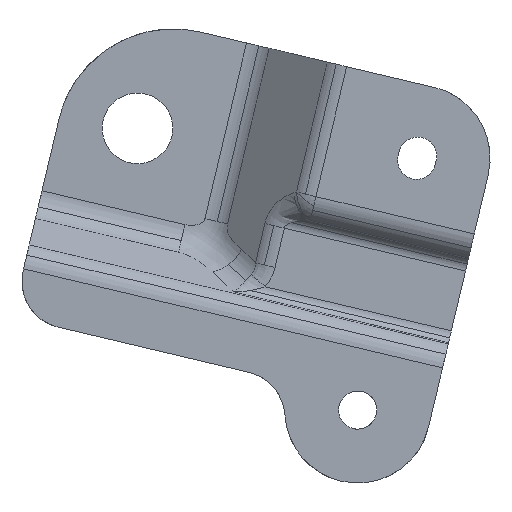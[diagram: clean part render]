
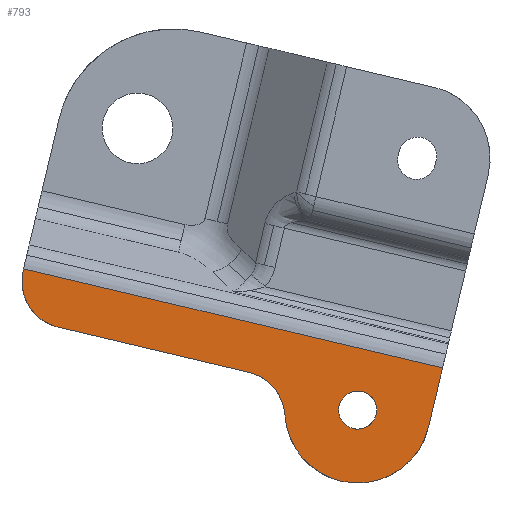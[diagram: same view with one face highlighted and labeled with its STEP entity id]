
A CAD part, front view. The second image highlights one B-rep face of the part: STEP entity #793.
In plain terms, the highlighted planar face has unit normal (0, -1, 0).
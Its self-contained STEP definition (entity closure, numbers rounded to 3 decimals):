
#244=CARTESIAN_POINT('Vertex',(-54.298,-498.001,528.252)) ;
#251=CARTESIAN_POINT('Vertex',(-46.868,-498.001,516.219)) ;
#254=CARTESIAN_POINT('Axis2P3D Location',(-44.567,-498.001,525.951)) ;
#271=CARTESIAN_POINT('Line Origine',(-54.254,-498.001,528.438)) ;
#275=CARTESIAN_POINT('Vertex',(-54.21,-498.001,528.623)) ;
#430=CARTESIAN_POINT('Vertex',(31.869,-498.001,495.03)) ;
#585=CARTESIAN_POINT('Vertex',(34.833,-498.001,507.565)) ;
#588=CARTESIAN_POINT('Line Origine',(33.351,-498.001,501.298)) ;
#629=CARTESIAN_POINT('Vertex',(13.218,-498.001,483.513)) ;
#632=CARTESIAN_POINT('Axis2P3D Location',(16.785,-498.001,498.597)) ;
#653=CARTESIAN_POINT('Vertex',(1.319,-498.001,497.57)) ;
#656=CARTESIAN_POINT('Axis2P3D Location',(16.785,-498.001,498.597)) ;
#673=CARTESIAN_POINT('Axis2P3D Location',(-8.659,-498.001,496.908)) ;
#677=CARTESIAN_POINT('Vertex',(-6.358,-498.001,506.639)) ;
#697=CARTESIAN_POINT('Line Origine',(-26.613,-498.001,511.429)) ;
#718=CARTESIAN_POINT('Vertex',(12.735,-498.001,498.597)) ;
#725=CARTESIAN_POINT('Vertex',(20.835,-498.001,498.597)) ;
#728=CARTESIAN_POINT('Axis2P3D Location',(16.785,-498.001,498.597)) ;
#746=CARTESIAN_POINT('Control Point',(20.835,-498.001,498.597)) ;
#747=CARTESIAN_POINT('Control Point',(20.835,-498.001,497.961)) ;
#748=CARTESIAN_POINT('Control Point',(20.71,-498.001,497.325)) ;
#749=CARTESIAN_POINT('Control Point',(20.46,-498.001,496.721)) ;
#750=CARTESIAN_POINT('Control Point',(19.737,-498.001,495.645)) ;
#751=CARTESIAN_POINT('Control Point',(18.661,-498.001,494.922)) ;
#752=CARTESIAN_POINT('Control Point',(18.057,-498.001,494.672)) ;
#753=CARTESIAN_POINT('Control Point',(16.785,-498.001,494.422)) ;
#754=CARTESIAN_POINT('Control Point',(15.513,-498.001,494.672)) ;
#755=CARTESIAN_POINT('Control Point',(14.909,-498.001,494.922)) ;
#756=CARTESIAN_POINT('Control Point',(13.833,-498.001,495.645)) ;
#757=CARTESIAN_POINT('Control Point',(13.11,-498.001,496.721)) ;
#758=CARTESIAN_POINT('Control Point',(12.86,-498.001,497.325)) ;
#759=CARTESIAN_POINT('Control Point',(12.735,-498.001,497.961)) ;
#760=CARTESIAN_POINT('Control Point',(12.735,-498.001,498.597)) ;
#769=CARTESIAN_POINT('Axis2P3D Location',(38.198,-498.001,521.792)) ;
#774=CARTESIAN_POINT('Line Origine',(-9.689,-498.001,518.094)) ;
#255=DIRECTION('Axis2P3D Direction',(0.,1.,0.)) ;
#272=DIRECTION('Vector Direction',(-0.23,0.,-0.973)) ;
#589=DIRECTION('Vector Direction',(-0.23,0.,-0.973)) ;
#633=DIRECTION('Axis2P3D Direction',(0.,1.,0.)) ;
#657=DIRECTION('Axis2P3D Direction',(0.,1.,0.)) ;
#674=DIRECTION('Axis2P3D Direction',(0.,-1.,0.)) ;
#698=DIRECTION('Vector Direction',(-0.973,0.,0.23)) ;
#729=DIRECTION('Axis2P3D Direction',(0.,1.,0.)) ;
#770=DIRECTION('Axis2P3D Direction',(0.,-1.,0.)) ;
#771=DIRECTION('Axis2P3D XDirection',(-0.973,0.,0.23)) ;
#775=DIRECTION('Vector Direction',(-0.973,0.,0.23)) ;
#256=AXIS2_PLACEMENT_3D('Circle Axis2P3D',#254,#255,$) ;
#634=AXIS2_PLACEMENT_3D('Circle Axis2P3D',#632,#633,$) ;
#658=AXIS2_PLACEMENT_3D('Circle Axis2P3D',#656,#657,$) ;
#675=AXIS2_PLACEMENT_3D('Circle Axis2P3D',#673,#674,$) ;
#730=AXIS2_PLACEMENT_3D('Circle Axis2P3D',#728,#729,$) ;
#772=AXIS2_PLACEMENT_3D('Plane Axis2P3D',#769,#770,#771) ;
#780=ORIENTED_EDGE('',*,*,#660,.F.) ;
#781=ORIENTED_EDGE('',*,*,#636,.T.) ;
#782=ORIENTED_EDGE('',*,*,#592,.F.) ;
#783=ORIENTED_EDGE('',*,*,#778,.T.) ;
#784=ORIENTED_EDGE('',*,*,#277,.T.) ;
#785=ORIENTED_EDGE('',*,*,#258,.T.) ;
#786=ORIENTED_EDGE('',*,*,#701,.F.) ;
#787=ORIENTED_EDGE('',*,*,#679,.F.) ;
#790=ORIENTED_EDGE('',*,*,#761,.T.) ;
#791=ORIENTED_EDGE('',*,*,#732,.T.) ;
#792=FACE_BOUND('',#789,.T.) ;
#273=VECTOR('Line Direction',#272,1.) ;
#590=VECTOR('Line Direction',#589,1.) ;
#699=VECTOR('Line Direction',#698,1.) ;
#776=VECTOR('Line Direction',#775,1.) ;
#793=ADVANCED_FACE('\X2\51E04F554F53\X0\.4',(#788,#792),#773,.T.) ;
#745=B_SPLINE_CURVE_WITH_KNOTS('',5,(#746,#747,#748,#749,#750,#751,#752,#753,#754,#755,#756,#757,#758,#759,#760),.UNSPECIFIED.,.F.,.U.,(6,3,3,3,6),(-6.362,-3.181,0.,3.181,6.362),.UNSPECIFIED.) ;
#257=CIRCLE('generated circle',#256,10.) ;
#635=CIRCLE('generated circle',#634,15.5) ;
#659=CIRCLE('generated circle',#658,15.5) ;
#676=CIRCLE('generated circle',#675,10.) ;
#731=CIRCLE('generated circle',#730,4.05) ;
#258=EDGE_CURVE('',#245,#252,#257,.F.) ;
#277=EDGE_CURVE('',#276,#245,#274,.T.) ;
#592=EDGE_CURVE('',#586,#431,#591,.T.) ;
#636=EDGE_CURVE('',#630,#431,#635,.F.) ;
#660=EDGE_CURVE('',#630,#654,#659,.T.) ;
#679=EDGE_CURVE('',#654,#678,#676,.T.) ;
#701=EDGE_CURVE('',#678,#252,#700,.T.) ;
#732=EDGE_CURVE('',#719,#726,#731,.T.) ;
#761=EDGE_CURVE('',#726,#719,#745,.T.) ;
#778=EDGE_CURVE('',#586,#276,#777,.T.) ;
#779=EDGE_LOOP('',(#780,#781,#782,#783,#784,#785,#786,#787)) ;
#789=EDGE_LOOP('',(#790,#791)) ;
#788=FACE_OUTER_BOUND('',#779,.T.) ;
#274=LINE('Line',#271,#273) ;
#591=LINE('Line',#588,#590) ;
#700=LINE('Line',#697,#699) ;
#777=LINE('Line',#774,#776) ;
#773=PLANE('Plane',#772) ;
#245=VERTEX_POINT('',#244) ;
#252=VERTEX_POINT('',#251) ;
#276=VERTEX_POINT('',#275) ;
#431=VERTEX_POINT('',#430) ;
#586=VERTEX_POINT('',#585) ;
#630=VERTEX_POINT('',#629) ;
#654=VERTEX_POINT('',#653) ;
#678=VERTEX_POINT('',#677) ;
#719=VERTEX_POINT('',#718) ;
#726=VERTEX_POINT('',#725) ;
